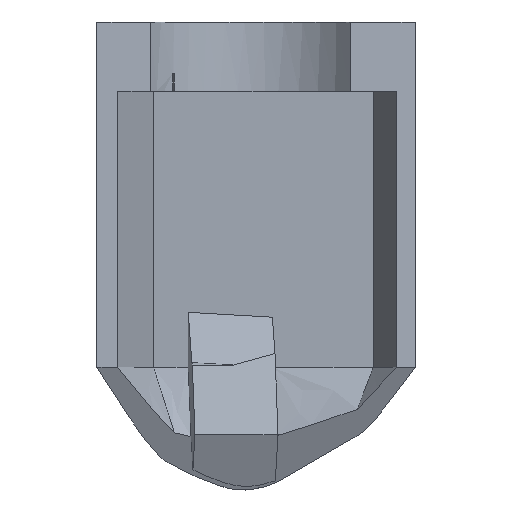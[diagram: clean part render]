
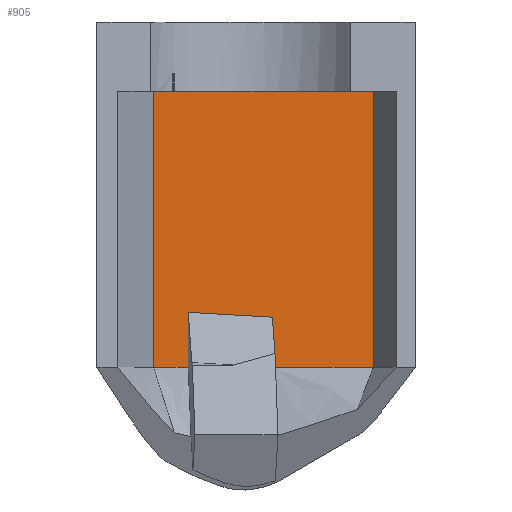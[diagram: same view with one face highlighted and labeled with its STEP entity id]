
A CAD part, top view. The second image highlights one B-rep face of the part: STEP entity #905.
In plain terms, the highlighted planar face has unit normal (0, 0, 1).
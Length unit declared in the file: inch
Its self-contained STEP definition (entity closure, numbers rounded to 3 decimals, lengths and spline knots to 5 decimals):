
#93=FACE_OUTER_BOUND('',#144,.T.);
#144=EDGE_LOOP('',(#665,#666,#667,#668,#669,#670,#671,#672,#673,#674));
#193=LINE('',#1195,#282);
#208=LINE('',#1314,#297);
#216=LINE('',#1493,#305);
#217=LINE('',#1495,#306);
#218=LINE('',#1497,#307);
#219=LINE('',#1499,#308);
#220=LINE('',#1501,#309);
#221=LINE('',#1503,#310);
#222=LINE('',#1505,#311);
#223=LINE('',#1506,#312);
#282=VECTOR('',#1003,0.6101);
#297=VECTOR('',#1028,0.39896);
#305=VECTOR('',#1044,0.36386);
#306=VECTOR('',#1045,0.73093);
#307=VECTOR('',#1046,2.);
#308=VECTOR('',#1047,0.68726);
#309=VECTOR('',#1048,0.29465);
#310=VECTOR('',#1049,0.61006);
#311=VECTOR('',#1050,2.);
#312=VECTOR('',#1051,0.25196);
#370=VERTEX_POINT('',#1191);
#372=VERTEX_POINT('',#1194);
#389=VERTEX_POINT('',#1306);
#411=VERTEX_POINT('',#1492);
#412=VERTEX_POINT('',#1494);
#413=VERTEX_POINT('',#1496);
#414=VERTEX_POINT('',#1498);
#415=VERTEX_POINT('',#1500);
#416=VERTEX_POINT('',#1502);
#417=VERTEX_POINT('',#1504);
#459=EDGE_CURVE('',#370,#372,#193,.T.);
#484=EDGE_CURVE('',#389,#372,#208,.T.);
#511=EDGE_CURVE('',#370,#411,#216,.T.);
#512=EDGE_CURVE('',#412,#411,#217,.T.);
#513=EDGE_CURVE('',#413,#412,#218,.T.);
#514=EDGE_CURVE('',#414,#413,#219,.T.);
#515=EDGE_CURVE('',#415,#414,#220,.T.);
#516=EDGE_CURVE('',#416,#415,#221,.T.);
#517=EDGE_CURVE('',#416,#417,#222,.T.);
#518=EDGE_CURVE('',#389,#417,#223,.T.);
#665=ORIENTED_EDGE('',*,*,#511,.T.);
#666=ORIENTED_EDGE('',*,*,#512,.F.);
#667=ORIENTED_EDGE('',*,*,#513,.F.);
#668=ORIENTED_EDGE('',*,*,#514,.F.);
#669=ORIENTED_EDGE('',*,*,#515,.F.);
#670=ORIENTED_EDGE('',*,*,#516,.F.);
#671=ORIENTED_EDGE('',*,*,#517,.T.);
#672=ORIENTED_EDGE('',*,*,#518,.F.);
#673=ORIENTED_EDGE('',*,*,#484,.T.);
#674=ORIENTED_EDGE('',*,*,#459,.F.);
#868=PLANE('',#957);
#905=ADVANCED_FACE('',(#93),#868,.F.);
#957=AXIS2_PLACEMENT_3D('',#1491,#1042,#1043);
#1003=DIRECTION('',(-0.998,0.058,0.));
#1028=DIRECTION('',(0.,1.,0.));
#1042=DIRECTION('center_axis',(0.,0.,-1.));
#1043=DIRECTION('ref_axis',(1.,0.,0.));
#1044=DIRECTION('',(0.,-1.,0.));
#1045=DIRECTION('',(-1.,0.,0.));
#1046=DIRECTION('',(0.,-1.,0.));
#1047=DIRECTION('',(1.,0.,0.));
#1048=DIRECTION('',(1.,0.,0.));
#1049=DIRECTION('',(1.,0.,0.));
#1050=DIRECTION('',(0.,-1.,0.));
#1051=DIRECTION('',(-1.,0.,0.));
#1191=CARTESIAN_POINT('',(0.10366,1.23886,-0.86428));
#1194=CARTESIAN_POINT('',(-0.50543,1.27396,-0.86428));
#1195=CARTESIAN_POINT('',(-0.64061,1.28175,-0.86428));
#1306=CARTESIAN_POINT('',(-0.50543,0.875,-0.86428));
#1314=CARTESIAN_POINT('',(-0.50543,1.61584,-0.86428));
#1491=CARTESIAN_POINT('Origin',(-0.75739,2.875,-0.86428));
#1492=CARTESIAN_POINT('',(0.10366,0.875,-0.86428));
#1493=CARTESIAN_POINT('',(0.10366,1.62277,-0.86428));
#1494=CARTESIAN_POINT('',(0.83458,0.875,-0.86428));
#1495=CARTESIAN_POINT('',(-0.37614,0.875,-0.86428));
#1496=CARTESIAN_POINT('',(0.83458,2.875,-0.86428));
#1497=CARTESIAN_POINT('',(0.83458,2.875,-0.86428));
#1498=CARTESIAN_POINT('',(0.14733,2.875,-0.86428));
#1499=CARTESIAN_POINT('',(-0.37614,2.875,-0.86428));
#1500=CARTESIAN_POINT('',(-0.14733,2.875,-0.86428));
#1501=CARTESIAN_POINT('',(-0.37614,2.875,-0.86428));
#1502=CARTESIAN_POINT('',(-0.75739,2.875,-0.86428));
#1503=CARTESIAN_POINT('',(-0.37614,2.875,-0.86428));
#1504=CARTESIAN_POINT('',(-0.75739,0.875,-0.86428));
#1505=CARTESIAN_POINT('',(-0.75739,2.875,-0.86428));
#1506=CARTESIAN_POINT('',(-0.37614,0.875,-0.86428));
